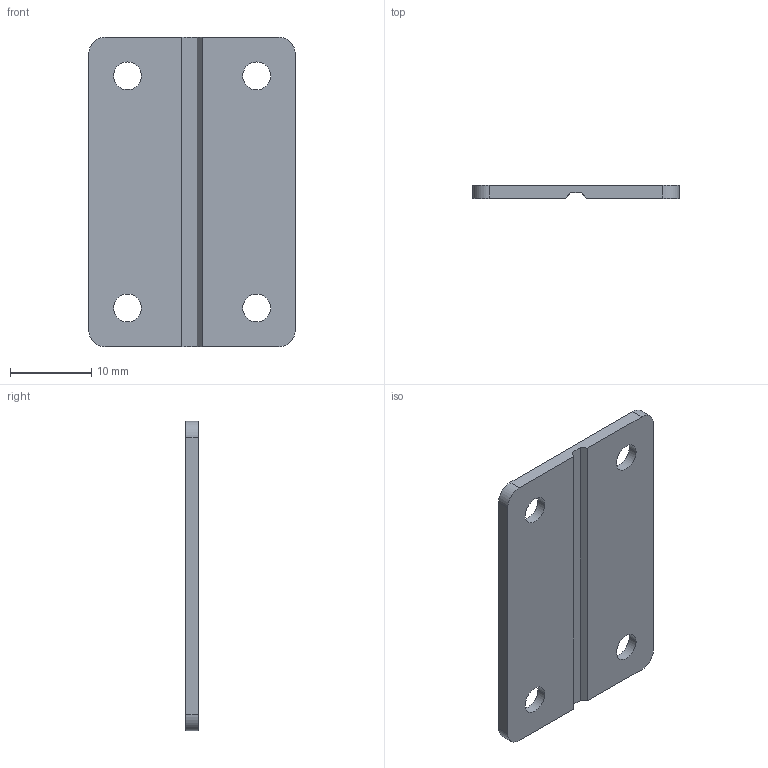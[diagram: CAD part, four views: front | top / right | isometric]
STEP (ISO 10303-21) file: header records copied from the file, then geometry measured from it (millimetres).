
FILE_DESCRIPTION((''),'2;1');
FILE_NAME('6527.01.stp','2015-07-17T10:30:08',(''),(''),'Mechanical Desktop 2006','Mechanical Desktop 2006',', , ');
FILE_SCHEMA(('CONFIG_CONTROL_DESIGN'));
Length unit declared in the file: millimetre
Products named in the file (2): 6527; TEIL2
Assembly tree (1 placements, depth 2):
  6527
    TEIL2
Bounding box: 25.4 x 1.59 x 38.1 mm (x, y, z)
Volume: 1413.9 mm3; surface area: 2130.2 mm2
Topology: 1 solids, 1 shells, 30 faces, 76 edges, 48 vertices
Faces by surface type: cylinder 12, plane 10, cone 8
Entity records: 1033 total; most frequent: DIRECTION 172, CARTESIAN_POINT 156, ORIENTED_EDGE 152, EDGE_CURVE 76, AXIS2_PLACEMENT_3D 64, VERTEX_POINT 48, VECTOR 44, LINE 44
